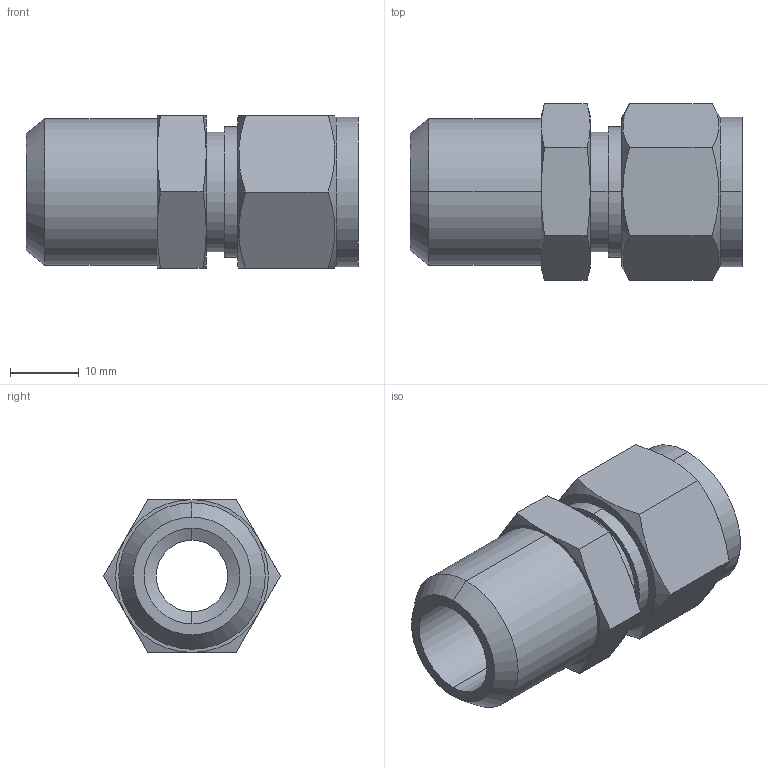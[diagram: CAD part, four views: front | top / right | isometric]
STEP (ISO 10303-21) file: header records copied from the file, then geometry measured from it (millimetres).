
FILE_DESCRIPTION (( 'STEP AP203' ), '1' );
FILE_NAME ('DCB08-08 SS.STEP', '2009-09-08T04:47:30', ( ' ' ), ( '' ), 'SwSTEP 2.0', 'SolidWorks 2008', '' );
FILE_SCHEMA (( 'CONFIG_CONTROL_DESIGN' ));
Length unit declared in the file: millimetre
Products named in the file (1): DCB08-08 SS
Bounding box: 48.3 x 25.67 x 22.23 mm (x, y, z)
Volume: 11884.6 mm3; surface area: 6205 mm2
Topology: 1 solids, 1 shells, 53 faces, 118 edges, 72 vertices
Faces by surface type: cone 20, plane 19, cylinder 14
Entity records: 1713 total; most frequent: CARTESIAN_POINT 500, ORIENTED_EDGE 236, DIRECTION 230, EDGE_CURVE 118, AXIS2_PLACEMENT_3D 98, VERTEX_POINT 72, EDGE_LOOP 60, ADVANCED_FACE 53
